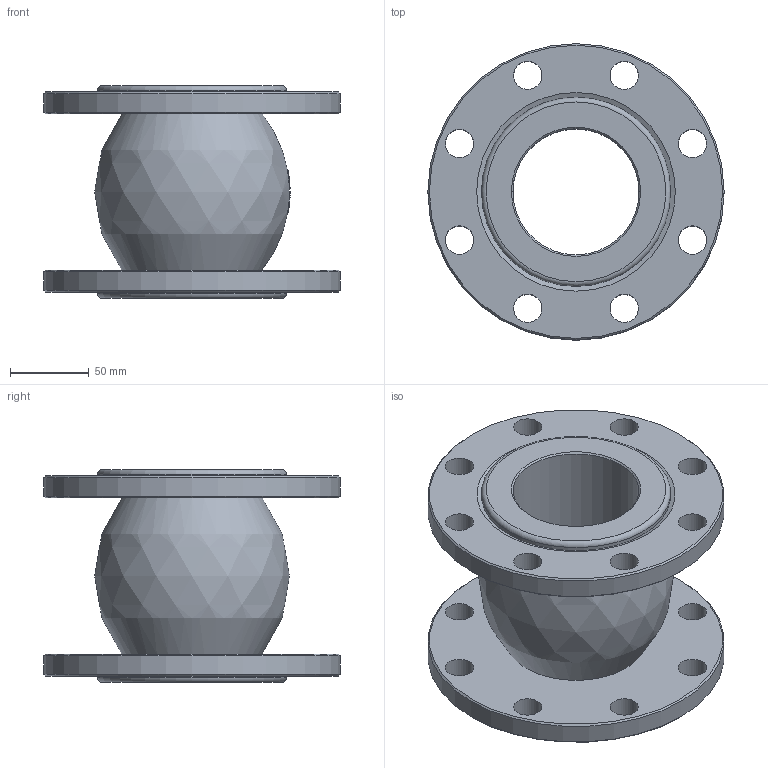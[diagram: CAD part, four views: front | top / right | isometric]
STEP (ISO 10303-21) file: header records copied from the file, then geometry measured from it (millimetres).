
FILE_DESCRIPTION(/* description */ ('D140-02164','CAx-IF Rec.Pracs.---Representation and Presentation of Product Manufacturing Information (PMI)---4.0---2014-10-13'),/* implementation_level */ '2;1');
FILE_NAME(/* name */ '',/* time_stamp */ '2026-04-30T10:58:36+03:00',/* author */ ('DN.RU'),/* organization */ ('DN.RU'),/* preprocessor_version */ 'ST-DEVELOPER v20',/* originating_system */ 'Autodesk Inventor 2025',/* authorisation */ '');
FILE_SCHEMA (('AP242_MANAGED_MODEL_BASED_3D_ENGINEERING_MIM_LF { 1 0 10303 442 1 1 4 }'));
Length unit declared in the file: millimetre
Products named in the file (1): CR-E25-F
Bounding box: 188 x 188 x 135 mm (x, y, z)
Volume: 1121660.9 mm3; surface area: 182867.9 mm2
Topology: 1 solids, 1 shells, 107 faces, 288 edges, 190 vertices
Faces by surface type: plane 43, bspline 34, cylinder 21, cone 7, torus 2
Full cylindrical faces by diameter (mm): 18 x16, 80 x1, 120 x2, 188 x2
Entity records: 4520 total; most frequent: CARTESIAN_POINT 1594, ORIENTED_EDGE 576, DIRECTION 552, EDGE_CURVE 288, AXIS2_PLACEMENT_3D 232, VERTEX_POINT 190, EDGE_LOOP 148, CIRCLE 145
